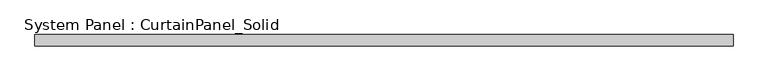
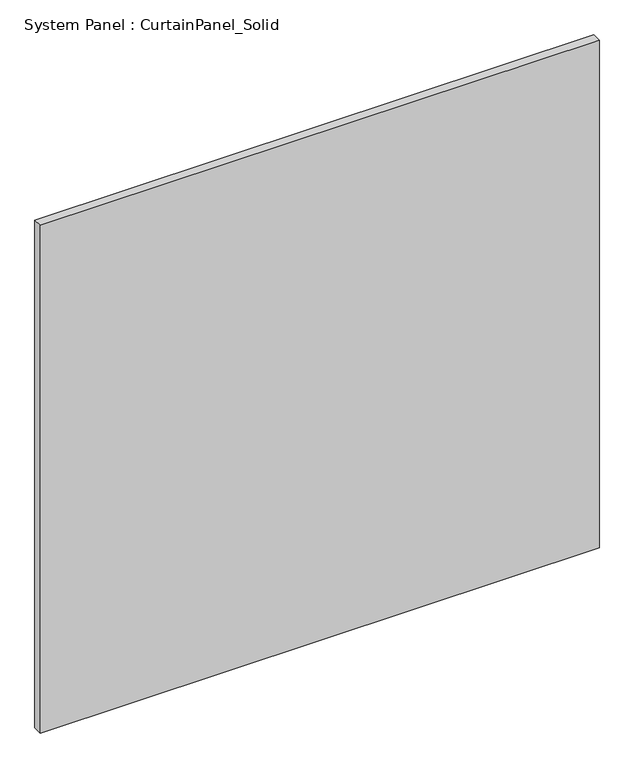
"""IFC4 building model written with IfcOpenShell, lengths in millimetres: plate geometry, System Panel : CurtainPanel_Solid."""

from ifc_helpers import new_model, si_unit, origin, origin_with_axes, place, context, project, spatial, polyline, outline, extrude, source, transform, mapped, element, save


def system_panel_curtainpanel_solid_a154ba9f(model_context):
    return source(origin(), model_context, "Body", "SweptSolid", [
        extrude(outline(polyline([(755.5555557, -12.5), (-755.5555557, -12.5), (-755.5555557, 12.5), (755.5555557, 12.5), (755.5555557, -12.5)])), origin_with_axes(), (0.0, 0.0, 1.0), 1450.0),
    ])


if __name__ == "__main__":
    model = new_model("IFC4")
    model_context = context("Model", 3, world=origin())
    ifc_project = project(units=[si_unit("LENGTHUNIT", "METRE", prefix="MILLI")], contexts=[model_context])
    site = spatial("IfcSite", under=ifc_project)
    building = spatial("IfcBuilding", under=site)
    placement = place(None, origin())
    system_panel_curtainpanel_solid_shape = system_panel_curtainpanel_solid_a154ba9f(model_context)
    element("IfcPlate", 1, ObjectType="System Panel : CurtainPanel_Solid", at=placement, inside=building, context=model_context, shape_type="MappedRepresentation", body=[
        mapped(system_panel_curtainpanel_solid_shape, transform((0.0, 0.0, 0.0), x_axis=(1.0, 0.0, 0.0), y_axis=(0.0, 1.0, 0.0), z_axis=(0.0, 0.0, 1.0))),
    ])
    save(model, "model.ifc")
